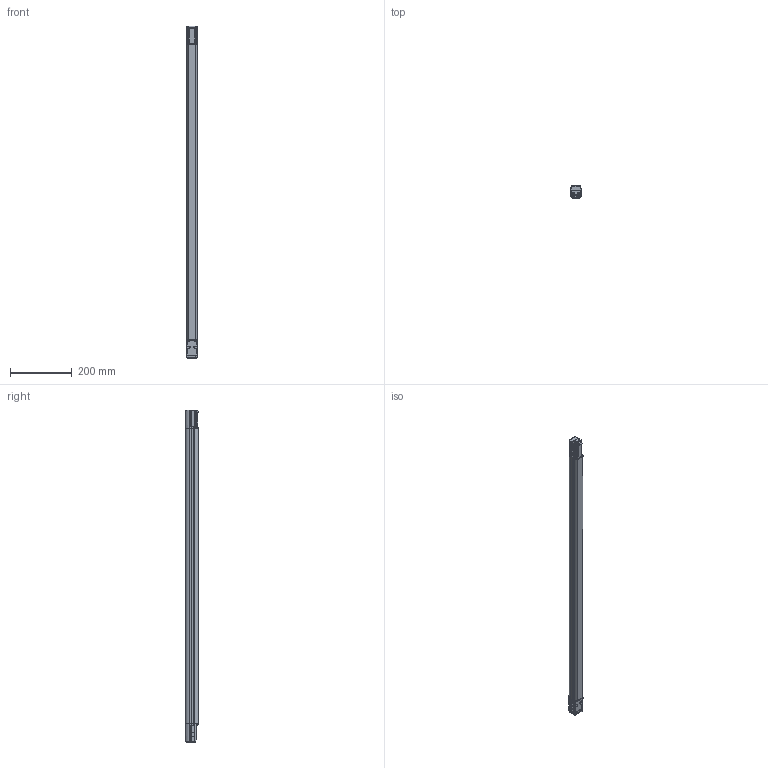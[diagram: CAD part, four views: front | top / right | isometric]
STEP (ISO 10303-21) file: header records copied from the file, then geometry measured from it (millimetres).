
FILE_DESCRIPTION(/* description */ (''),/* implementation_level */ '2;1');
FILE_NAME(/* name */ 'DSD-1128 SH4-P4-090.stp',/* time_stamp */ '2023-01-12T14:20:28+01:00',/* author */ (''),/* organization */ (''),/* preprocessor_version */ 'ST-DEVELOPER v16.701',/* originating_system */ 'SIEMENS PLM Software NX 1946',/* authorisation */ '');
FILE_SCHEMA (('AUTOMOTIVE_DESIGN { 1 0 10303 214 3 1 1 1 }'));
Length unit declared in the file: millimetre
Products named in the file (1): FGut5B4C7397d7hq
Bounding box: 35.08 x 40 x 1074 mm (x, y, z)
Volume: 1252909.4 mm3; surface area: 253354 mm2
Topology: 6 solids, 11 shells, 891 faces, 2383 edges, 1504 vertices
Faces by surface type: plane 363, cylinder 315, bspline 92, cone 55, extrusion 24, sphere 22, torus 20
Full cylindrical faces by diameter (mm): 2.013 x4, 2.2 x4, 3 x4, 4.37 x4, 5 x8
Entity records: 34929 total; most frequent: CARTESIAN_POINT 13568, ORIENTED_EDGE 4486, DIRECTION 3865, EDGE_CURVE 2243, VERTEX_POINT 1470, AXIS2_PLACEMENT_3D 1345, VECTOR 1175, LINE 1151
